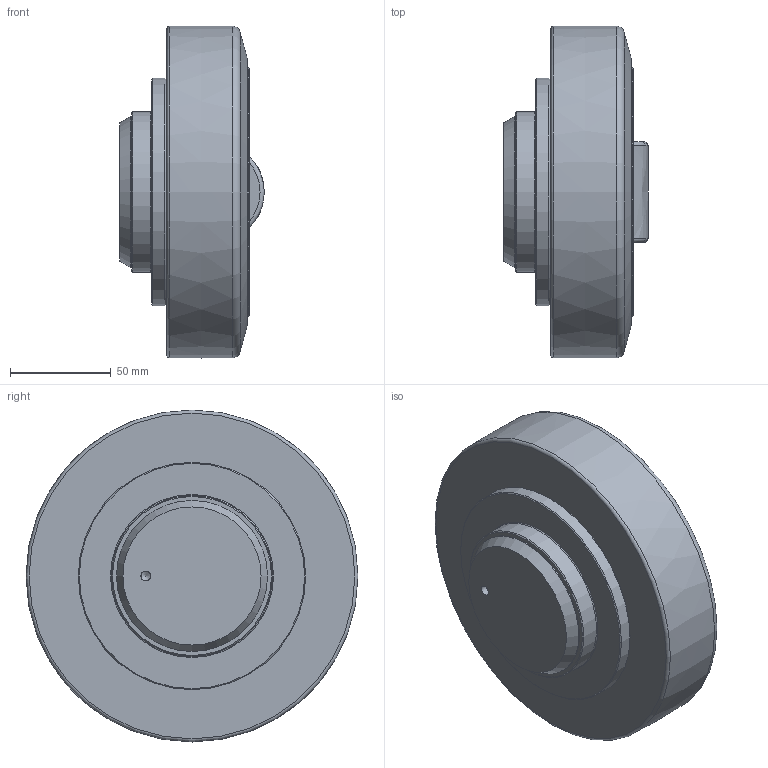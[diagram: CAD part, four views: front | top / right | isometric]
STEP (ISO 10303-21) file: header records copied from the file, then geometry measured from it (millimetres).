
FILE_DESCRIPTION(/* description */ ('-','CAx-IF Rec.Pracs.---Representation and Presentation of Product Manufacturing Information (PMI)---4.0---2014-10-13'),/* implementation_level */ '2;1');
FILE_NAME(/* name */ 'c:\temp\743a475b-1f31-476c-bafe-433d92336536\b506e5fa-6f4a-4aa3-a6f1-235e3c0c734c.stp',/* time_stamp */ '2020-04-01T16:09:35+02:00',/* author */ ('-'),/* organization */ ('NTI CADcenter A/S'),/* preprocessor_version */ 'ST-DEVELOPER v18',/* originating_system */ 'Autodesk Inventor 2020',/* authorisation */ '-');
FILE_SCHEMA (('AP242_MANAGED_MODEL_BASED_3D_ENGINEERING_MIM_LF { 1 0 10303 442 1 1 4 }'));
Length unit declared in the file: millimetre
Products named in the file (1): MR 165.0610_Kontur
Bounding box: 72 x 164.99 x 165 mm (x, y, z)
Volume: 1006137.9 mm3; surface area: 68349 mm2
Topology: 1 solids, 1 shells, 112 faces, 295 edges, 206 vertices
Faces by surface type: plane 73, cone 16, cylinder 15, torus 6, bspline 2
Full cylindrical faces by diameter (mm): 2.5 x2, 4.917 x3, 11.7 x6, 75 x1, 80 x1, 113 x1, 123.8 x1
Entity records: 3689 total; most frequent: CARTESIAN_POINT 772, DIRECTION 609, ORIENTED_EDGE 586, EDGE_CURVE 293, AXIS2_PLACEMENT_3D 216, VERTEX_POINT 206, LINE 177, VECTOR 177
